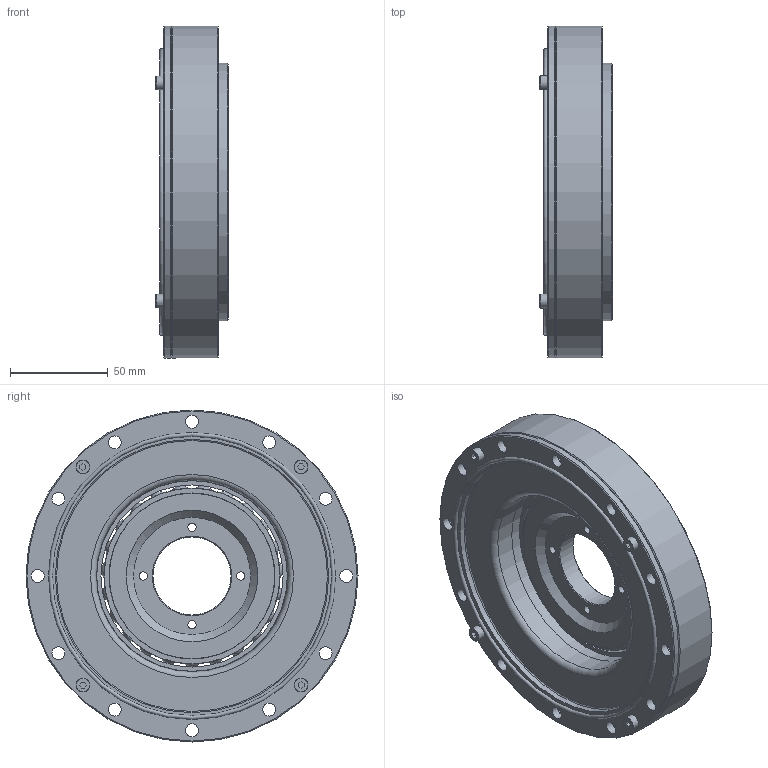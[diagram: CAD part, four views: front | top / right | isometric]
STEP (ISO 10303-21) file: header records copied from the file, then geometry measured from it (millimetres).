
FILE_DESCRIPTION (( 'STEP AP214' ), '1' );
FILE_NAME ('FHD-40-XXX-SH.STEP', '2025-08-11T08:27:12', ( '微软用户' ), ( '微软中国' ), 'SwSTEP 2.0', 'SolidWorks 2016', '' );
FILE_SCHEMA (( 'AUTOMOTIVE_DESIGN' ));
Length unit declared in the file: millimetre
Products named in the file (1): FHD-40-XXX-SH
Bounding box: 37 x 170 x 170 mm (x, y, z)
Volume: 426516.9 mm3; surface area: 202548.4 mm2
Topology: 38 solids, 38 shells, 353 faces, 875 edges, 568 vertices
Faces by surface type: cylinder 137, plane 116, cone 51, torus 26, sphere 23
Full cylindrical faces by diameter (mm): 3.3 x4, 4 x4, 4.2 x4, 4.5 x4, 5 x12, 6.6 x24, 7 x4, 40 x1, 70.12 x1, 71.12 x2, 74.12 x1, 76.25 x2, 78 x1, 85 x1, 90 x1, 93.22 x2, 97.971 x1, 98.171 x1, 100.56 x1, 102.281 x1, 106 x1, 108 x1, 112.4 x1, 132 x4, 134.5 x2, 136 x1, 140 x2, 142 x1, 142.6 x1, 146 x2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
Entity records: 13136 total; most frequent: DIRECTION 1708, CARTESIAN_POINT 1402, ORIENTED_EDGE 1164, AXIS2_PLACEMENT_3D 772, EDGE_LOOP 594, EDGE_CURVE 582, VERTEX_POINT 466, FACE_OUTER_BOUND 441
